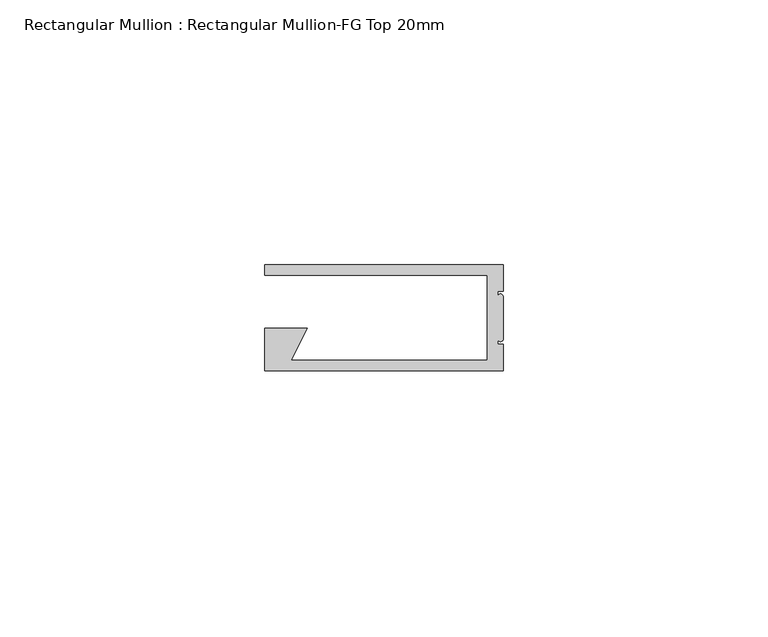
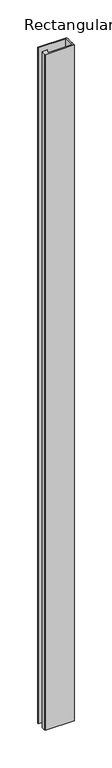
"""IFC4 building model written with IfcOpenShell, lengths in millimetres: member geometry, Rectangular Mullion : Rectangular Mullion-FG Top 20mm."""

from ifc_helpers import new_model, si_unit, frame, origin, place, context, project, spatial, circle_curve, source, transform, mapped, element, save
from ifc_brep_helpers import plane_surface, cylinder_surface, advanced_brep


def rectangular_mullion_rectangular_mullion_fg_top_20mm_d943a9ef(model_context):
    return source(origin(), model_context, "Body", "AdvancedBrep", [
        advanced_brep(
        [(0.0, -5.0, 0.0), (0.0, 0.0, 0.0), (-45.0, 0.0, 0.0), (-45.0, -2.0, 0.0), (-3.0, -2.0, 0.0), (-3.0, -18.0, 0.0), (-40.0, -18.0, 0.0), (-37.0, -12.0, 0.0), (-45.0, -12.0, 0.0), (-45.0, -18.0, 0.0), (-45.0, -20.0, 0.0), (0.0, -20.0, 0.0), (0.0, -15.0, 0.0), (-1.0, -15.0, 0.0), (-1.0, -14.0, 0.0), (0.0, -14.0, 0.0), (0.0, -6.0, 0.0), (-1.0, -6.0, 0.0), (-1.0, -5.0, 0.0), (0.0, -5.0, -1100.0), (-1.0, -5.0, -1100.0), (-1.0, -6.0, -1100.0), (0.0, -6.0, -1100.0), (0.0, -14.0, -1100.0), (-1.0, -14.0, -1100.0), (-1.0, -15.0, -1100.0), (0.0, -15.0, -1100.0), (0.0, -20.0, -1100.0), (-45.0, -20.0, -1100.0), (-45.0, -18.0, -1100.0), (-45.0, -12.0, -1100.0), (-37.0, -12.0, -1100.0), (-40.0, -18.0, -1100.0), (-3.0, -18.0, -1100.0), (-3.0, -2.0, -1100.0), (-45.0, -2.0, -1100.0), (-45.0, 0.0, -1100.0), (0.0, 0.0, -1100.0)],
        [
            (0, 1),
            (1, 2),
            (2, 3),
            (3, 4),
            (4, 5),
            (5, 6),
            (6, 7),
            (7, 8),
            (8, 9),
            (9, 10),
            (10, 11),
            (11, 12),
            (12, 13),
            (13, 14),
            (14, 15, circle_curve(frame((-0.5, -14.0, 0.0), z_axis=(0.0, 0.0, 1.0), x_axis=(1.0, 0.0, 0.0)), 0.5)),
            (15, 16),
            (16, 17, circle_curve(frame((-0.5, -6.0, 0.0), z_axis=(0.0, 0.0, 1.0), x_axis=(1.0, 0.0, 0.0)), 0.5)),
            (17, 18),
            (18, 0),
            (19, 20),
            (20, 21),
            (21, 22, circle_curve(frame((-0.5, -6.0, -1100.0), z_axis=(0.0, 0.0, -1.0), x_axis=(1.0, 0.0, 0.0)), 0.5)),
            (22, 23),
            (23, 24, circle_curve(frame((-0.5, -14.0, -1100.0), z_axis=(0.0, 0.0, -1.0), x_axis=(1.0, 0.0, 0.0)), 0.5)),
            (24, 25),
            (25, 26),
            (26, 27),
            (27, 28),
            (28, 29),
            (29, 30),
            (30, 31),
            (31, 32),
            (32, 33),
            (33, 34),
            (34, 35),
            (35, 36),
            (36, 37),
            (37, 19),
            (0, 19),
            (37, 1),
            (36, 2),
            (35, 3),
            (34, 4),
            (33, 5),
            (32, 6),
            (31, 7),
            (30, 8),
            (29, 9),
            (28, 10),
            (27, 11),
            (26, 12),
            (25, 13),
            (24, 14),
            (23, 15),
            (22, 16),
            (21, 17),
            (20, 18),
        ],
        [
            plane_surface(frame((0.0, -49.244289, 0.0), z_axis=(0.0, 0.0, 1.0), x_axis=(-1.0, 0.0, 0.0))),
            plane_surface(frame((0.0, -49.244289, -1100.0), z_axis=(0.0, 0.0, -1.0), x_axis=(-1.0, 0.0, 0.0))),
            plane_surface(frame((0.0, -5.0, 0.0), z_axis=(1.0, 0.0, 0.0), x_axis=(0.0, 0.0, -1.0))),
            plane_surface(frame((0.0, 0.0, 0.0), z_axis=(0.0, 1.0, 0.0), x_axis=(0.0, 0.0, -1.0))),
            plane_surface(frame((-45.0, 0.0, 0.0), z_axis=(-1.0, 0.0, 0.0), x_axis=(0.0, 0.0, -1.0))),
            plane_surface(frame((-45.0, -2.0, 0.0), z_axis=(0.0, -1.0, 0.0), x_axis=(0.0, 0.0, -1.0))),
            plane_surface(frame((-3.0, -2.0, 0.0), z_axis=(-1.0, 0.0, 0.0), x_axis=(0.0, 0.0, -1.0))),
            plane_surface(frame((-3.0, -18.0, 0.0), z_axis=(0.0, 1.0, 0.0), x_axis=(0.0, 0.0, -1.0))),
            plane_surface(frame((-40.0, -18.0, 0.0), z_axis=(0.8944271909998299, -0.4472135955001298, 0.0), x_axis=(0.0, 0.0, -1.0))),
            plane_surface(frame((-37.0, -12.0, 0.0), z_axis=(0.0, 1.0, 0.0), x_axis=(0.0, 0.0, -1.0))),
            plane_surface(frame((-45.0, -12.0, 0.0), z_axis=(-1.0, 0.0, 0.0), x_axis=(0.0, 0.0, -1.0))),
            plane_surface(frame((-45.0, -18.0, 0.0), z_axis=(-1.0, 0.0, 0.0), x_axis=(0.0, 0.0, -1.0))),
            plane_surface(frame((-45.0, -20.0, 0.0), z_axis=(0.0, -1.0, 0.0), x_axis=(0.0, 0.0, -1.0))),
            plane_surface(frame((0.0, -20.0, 0.0), z_axis=(1.0, 0.0, 0.0), x_axis=(0.0, 0.0, -1.0))),
            plane_surface(frame((0.0, -15.0, 0.0), z_axis=(0.0, 1.0, 0.0), x_axis=(0.0, 0.0, -1.0))),
            plane_surface(frame((-1.0, -15.0, 0.0), z_axis=(1.0, 0.0, 0.0), x_axis=(0.0, 0.0, -1.0))),
            cylinder_surface(frame((-0.5, -14.0, 0.0), z_axis=(0.0, 0.0, 1.0), x_axis=(1.0, 0.0, 0.0)), 0.5),
            plane_surface(frame((0.0, -14.0, 0.0), z_axis=(1.0, 0.0, 0.0), x_axis=(0.0, 0.0, -1.0))),
            cylinder_surface(frame((-0.5, -6.0, 0.0), z_axis=(0.0, 0.0, 1.0), x_axis=(1.0, 0.0, 0.0)), 0.5),
            plane_surface(frame((-1.0, -6.0, 0.0), z_axis=(1.0, 0.0, 0.0), x_axis=(0.0, 0.0, -1.0))),
            plane_surface(frame((-1.0, -5.0, 0.0), z_axis=(0.0, -1.0, 0.0), x_axis=(0.0, 0.0, -1.0))),
        ],
        [
            (0, [[1, 2, 3, 4, 5, 6, 7, 8, 9, 10, 11, 12, 13, 14, 15, 16, 17, 18, 19]]),
            (1, [[20, 21, 22, 23, 24, 25, 26, 27, 28, 29, 30, 31, 32, 33, 34, 35, 36, 37, 38]]),
            (2, [[-1, 39, -38, 40]]),
            (3, [[-2, -40, -37, 41]]),
            (4, [[-3, -41, -36, 42]]),
            (5, [[-4, -42, -35, 43]]),
            (6, [[-5, -43, -34, 44]]),
            (7, [[-6, -44, -33, 45]]),
            (8, [[-7, -45, -32, 46]]),
            (9, [[-8, -46, -31, 47]]),
            (10, [[-9, -47, -30, 48]]),
            (11, [[-10, -48, -29, 49]]),
            (12, [[-11, -49, -28, 50]]),
            (13, [[-12, -50, -27, 51]]),
            (14, [[-13, -51, -26, 52]]),
            (15, [[-14, -52, -25, 53]]),
            (16, [[-15, -53, -24, 54]]),
            (17, [[-16, -54, -23, 55]]),
            (18, [[-17, -55, -22, 56]]),
            (19, [[-18, -56, -21, 57]]),
            (20, [[-19, -57, -20, -39]]),
        ],
    ),
    ])


if __name__ == "__main__":
    model = new_model("IFC4")
    model_context = context("Model", 3, world=origin())
    ifc_project = project(units=[si_unit("LENGTHUNIT", "METRE", prefix="MILLI")], contexts=[model_context])
    site = spatial("IfcSite", under=ifc_project)
    building = spatial("IfcBuilding", under=site)
    placement = place(None, origin())
    rectangular_mullion_rectangular_mullion_fg_top_20mm_shape = rectangular_mullion_rectangular_mullion_fg_top_20mm_d943a9ef(model_context)
    element("IfcMember", 1, ObjectType="Rectangular Mullion : Rectangular Mullion-FG Top 20mm", at=placement, inside=building, context=model_context, shape_type="MappedRepresentation", body=[
        mapped(rectangular_mullion_rectangular_mullion_fg_top_20mm_shape, transform((0.0, 0.0, 0.0), x_axis=(1.0, 0.0, 0.0), y_axis=(0.0, 1.0, 0.0), z_axis=(0.0, 0.0, 1.0))),
    ])
    save(model, "model.ifc")
